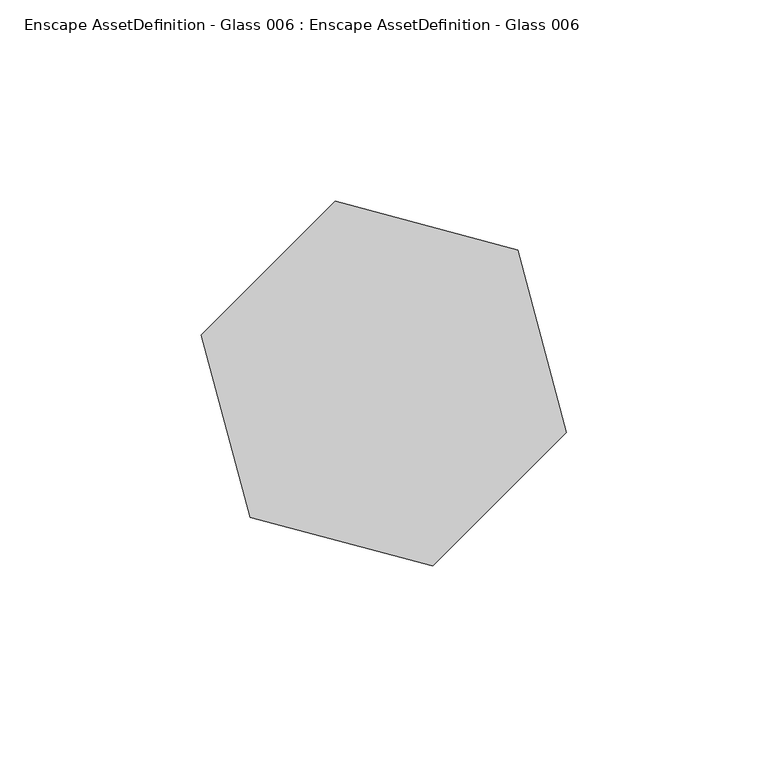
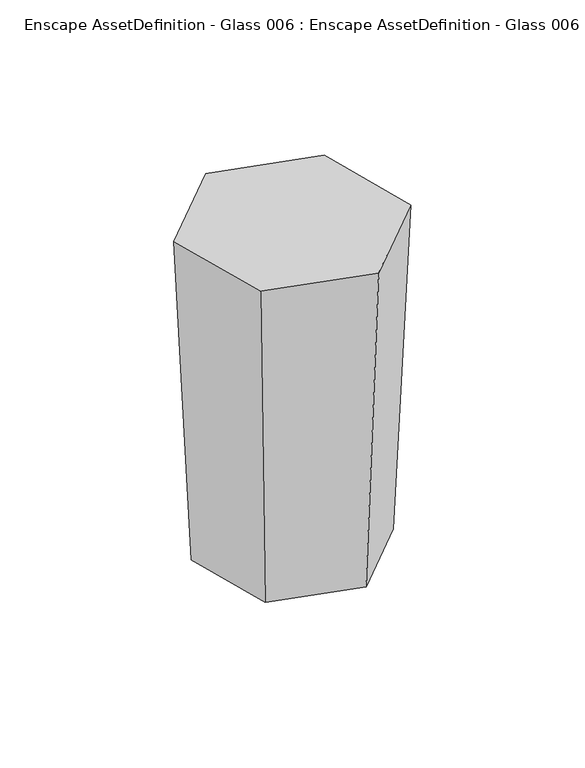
"""IFC4 building model written with IfcOpenShell, lengths in millimetres: geographic element geometry, Enscape AssetDefinition - Glass 006 : Enscape AssetDefinition - Glass 006."""

from ifc_helpers import new_model, si_unit, origin, place, context, project, spatial, triangles, source, transform, mapped, element, save


def enscape_assetdefinition_glass_006_enscape_assetdefinition_72c5cc0c(model_context):
    return source(origin(), model_context, "Body", "Tessellation", [
        triangles([(28.3220063, 28.3220063, 0.0), (38.6888948, -10.3668863, 0.0), (-10.3668863, 38.6888948, 0.0), (-38.6888948, 10.3668863, 0.0), (-28.3220063, -28.3220063, 0.0), (10.3668863, -38.6888948, 0.0), (33.1557047, 33.1557047, 150.0907115), (-12.135383, 45.29109, 150.0907115), (-33.1557047, -33.1557047, 150.0907115), (-45.29109, 12.135383, 150.0907115), (12.135383, -45.29109, 150.0907115), (45.29109, -12.135383, 150.0907115)], [[8, 9, 12], [9, 11, 12], [8, 10, 9], [2, 5, 3], [5, 4, 3], [2, 6, 5], [2, 12, 11], [6, 11, 9], [5, 9, 10], [4, 10, 8], [3, 8, 7], [1, 7, 12], [7, 8, 12], [1, 2, 3], [6, 2, 11], [6, 9, 5], [4, 5, 10], [3, 4, 8], [1, 3, 7], [1, 12, 2]]),
    ])


if __name__ == "__main__":
    model = new_model("IFC4")
    model_context = context("Model", 3, world=origin())
    ifc_project = project(units=[si_unit("LENGTHUNIT", "METRE", prefix="MILLI")], contexts=[model_context])
    site = spatial("IfcSite", under=ifc_project)
    building = spatial("IfcBuilding", under=site)
    placement = place(None, origin())
    enscape_assetdefinition_glass_006_enscape_assetdefinition_shape = enscape_assetdefinition_glass_006_enscape_assetdefinition_72c5cc0c(model_context)
    element("IfcGeographicElement", 1, ObjectType="Enscape AssetDefinition - Glass 006 : Enscape AssetDefinition - Glass 006", at=placement, inside=building, context=model_context, shape_type="MappedRepresentation", body=[
        mapped(enscape_assetdefinition_glass_006_enscape_assetdefinition_shape, transform((0.0, 0.0, 0.0), x_axis=(1.0, 0.0, 0.0), y_axis=(0.0, 1.0, 0.0), z_axis=(0.0, 0.0, 1.0))),
    ])
    save(model, "model.ifc")
